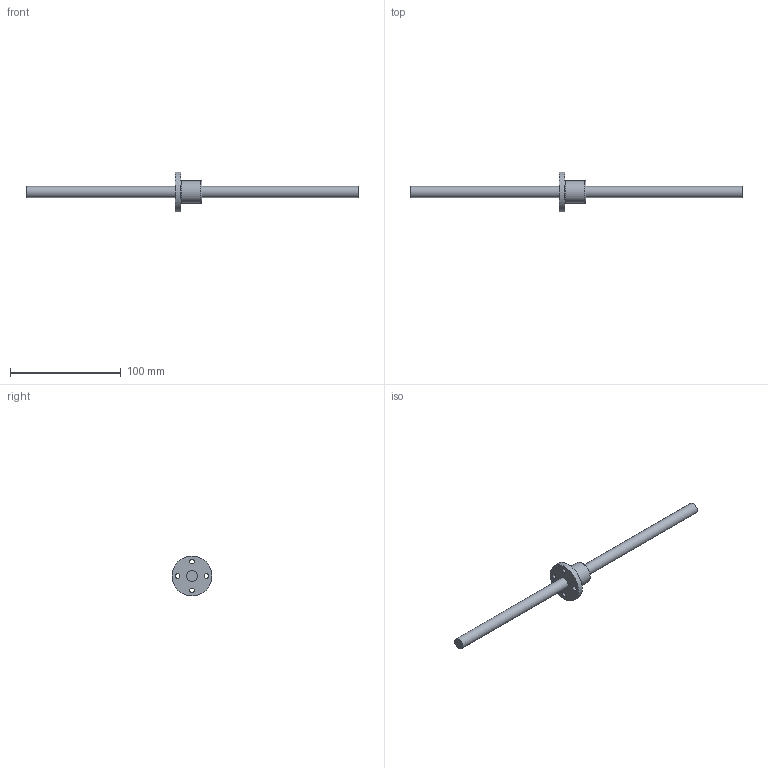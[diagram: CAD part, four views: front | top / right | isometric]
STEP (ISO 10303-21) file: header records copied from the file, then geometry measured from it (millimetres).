
FILE_DESCRIPTION((''),'2;1');
FILE_NAME('D:\製品 (図面)\カタログ用3D\ネジ関連\STEP形式\TMF\TMF10.stp','2010-06-02T14:57:36',('Tsuchiya'),(''),'Autodesk Inventor 10','Autodesk Inventor 10','');
FILE_SCHEMA(('AUTOMOTIVE_DESIGN { 1 0 10303 214 1 1 1 1 }'));
Length unit declared in the file: millimetre
Products named in the file (3): TMF10; TMF101; TMF102
Assembly tree (2 placements, depth 2):
  TMF10
    TMF101
    TMF102
Bounding box: 300 x 36 x 36 mm (x, y, z)
Volume: 32435.1 mm3; surface area: 14087 mm2
Topology: 2 solids, 2 shells, 15 faces, 32 edges, 22 vertices
Faces by surface type: cylinder 8, plane 5, torus 1, bspline 1
Full cylindrical faces by diameter (mm): 4.3 x4, 10 x2, 20 x1, 36 x1
Entity records: 470 total; most frequent: CARTESIAN_POINT 100, DIRECTION 74, AXIS2_PLACEMENT_3D 37, ORIENTED_EDGE 36, EDGE_LOOP 36, FACE_BOUND 21, VERTEX_POINT 18, CIRCLE 18
